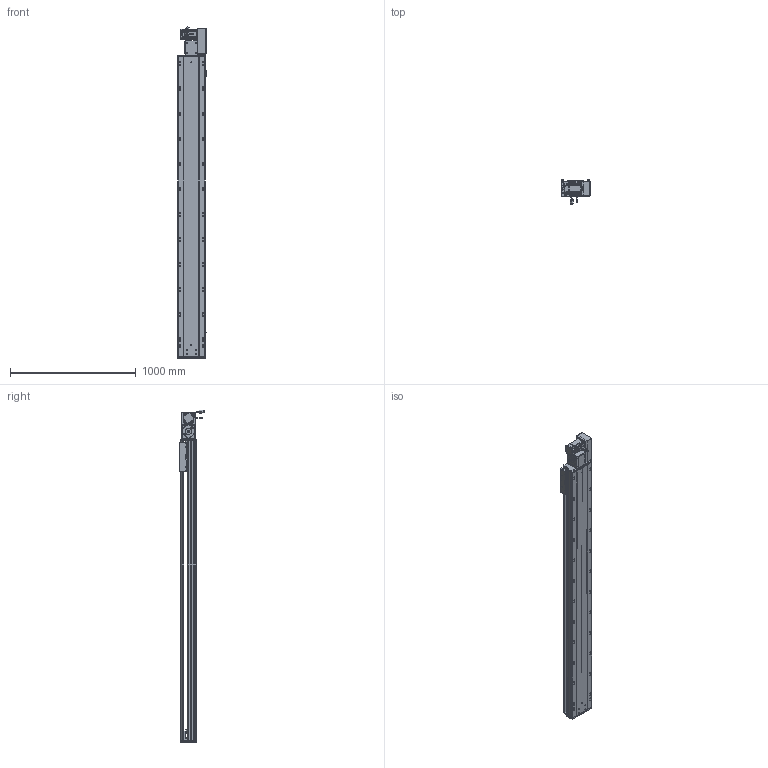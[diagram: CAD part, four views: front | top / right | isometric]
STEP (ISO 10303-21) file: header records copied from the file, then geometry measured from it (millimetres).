
FILE_DESCRIPTION (( 'STEP AP203' ), '1' );
FILE_NAME ('RY220-T-300-RK.SLDASM_2050.step', '2022-07-25T08:24:28', ( '' ), ( '' ), 'SwSTEP 2.0', 'SolidWorks 2016', '' );
FILE_SCHEMA (( 'CONFIG_CONTROL_DESIGN' ));
Length unit declared in the file: millimetre
Products named in the file (14): RY220-同步轮副支撑座6304×2; RY220翋肮祭謫釱; RY220-T-300-RK.SLDASM_2050; RY220翋肮祭謫裔啣; RY220-T-蛌殏萇儂假蚾啣(750W); RY220-T-湍謫欶(鍼踢); 滅袉蝶18-15; RY220-T菁釱-300_2050; RY220-俋离672覜茼んえ; RY220圉猾敕々湍臏賑輸; RY220-T-300-奻裔啣_2050; 覜茼ん672; 110A-T-肮祭謫釱傷裔; 怢湛750W_ECMA-CX0807ES
Assembly tree (18 placements, depth 2):
  RY220-T-300-RK.SLDASM_2050
    RY220-T菁釱-300_2050
    RY220翋肮祭謫釱
    覜茼ん672  x3
    RY220圉猾敕々湍臏賑輸
    RY220-T-300-奻裔啣_2050
    RY220-俋离672覜茼んえ
    滅袉蝶18-15  x3
    RY220翋肮祭謫裔啣  x2
    110A-T-肮祭謫釱傷裔
    怢湛750W_ECMA-CX0807ES
    RY220-T-湍謫欶(鍼踢)
    RY220-T-蛌殏萇儂假蚾啣(750W)
    RY220-同步轮副支撑座6304×2
Bounding box: 238.7 x 198.77 x 2645.24 mm (x, y, z)
Volume: 19052134.5 mm3; surface area: 5795792.9 mm2
Topology: 19 solids, 19 shells, 2844 faces, 7863 edges, 4952 vertices
Faces by surface type: cylinder 1376, plane 1069, cone 317, bspline 56, sphere 16, torus 10
Entity records: 94851 total; most frequent: CARTESIAN_POINT 26907, ORIENTED_EDGE 14074, DIRECTION 13468, EDGE_CURVE 7037, AXIS2_PLACEMENT_3D 4822, VERTEX_POINT 4576, VECTOR 3824, LINE 3824
